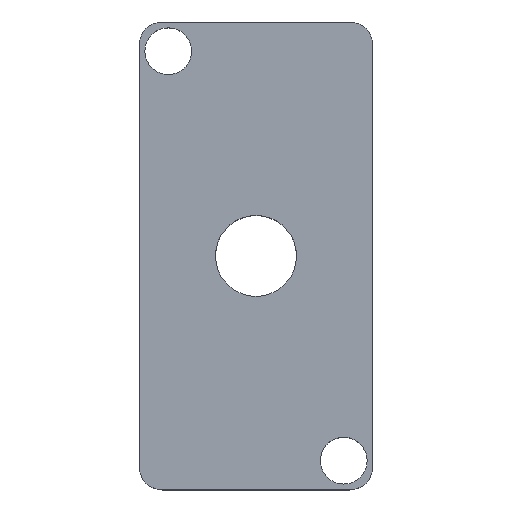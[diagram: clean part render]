
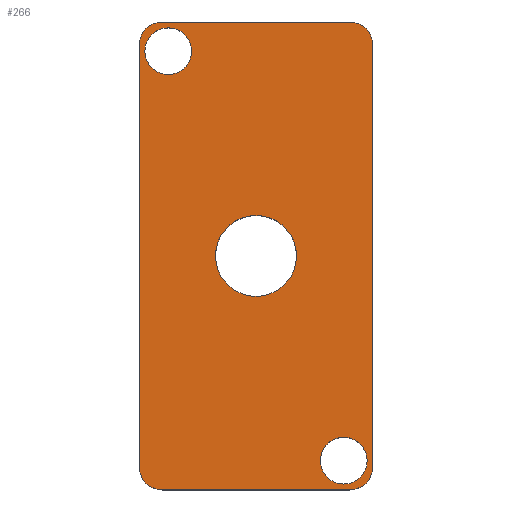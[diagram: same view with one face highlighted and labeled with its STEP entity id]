
A CAD part, top view. The second image highlights one B-rep face of the part: STEP entity #266.
In plain terms, the highlighted planar face has unit normal (0, 0, 1).
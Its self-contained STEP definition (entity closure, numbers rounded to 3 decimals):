
#18=FACE_BOUND('',#56,.T.);
#19=FACE_BOUND('',#57,.T.);
#20=FACE_BOUND('',#58,.T.);
#26=PLANE('',#316);
#39=FACE_OUTER_BOUND('',#55,.T.);
#55=EDGE_LOOP('',(#233,#234,#235,#236,#237,#238,#239,#240));
#56=EDGE_LOOP('',(#241,#242));
#57=EDGE_LOOP('',(#243,#244));
#58=EDGE_LOOP('',(#245,#246));
#65=LINE('',#430,#84);
#71=LINE('',#445,#90);
#76=LINE('',#469,#95);
#77=LINE('',#471,#96);
#84=VECTOR('',#347,10.);
#90=VECTOR('',#363,10.);
#95=VECTOR('',#392,10.);
#96=VECTOR('',#395,10.);
#97=CIRCLE('',#288,4.);
#105=CIRCLE('',#299,4.);
#106=CIRCLE('',#301,4.);
#107=CIRCLE('',#304,4.);
#108=CIRCLE('',#306,6.918);
#109=CIRCLE('',#307,6.918);
#110=CIRCLE('',#309,4.);
#111=CIRCLE('',#310,4.);
#112=CIRCLE('',#312,4.);
#113=CIRCLE('',#313,4.);
#114=VERTEX_POINT('',#400);
#115=VERTEX_POINT('',#401);
#127=VERTEX_POINT('',#429);
#128=VERTEX_POINT('',#433);
#129=VERTEX_POINT('',#437);
#130=VERTEX_POINT('',#438);
#131=VERTEX_POINT('',#443);
#132=VERTEX_POINT('',#447);
#133=VERTEX_POINT('',#451);
#134=VERTEX_POINT('',#452);
#135=VERTEX_POINT('',#457);
#136=VERTEX_POINT('',#458);
#137=VERTEX_POINT('',#463);
#138=VERTEX_POINT('',#464);
#139=EDGE_CURVE('',#114,#115,#97,.T.);
#153=EDGE_CURVE('',#115,#127,#65,.T.);
#155=EDGE_CURVE('',#127,#128,#105,.T.);
#157=EDGE_CURVE('',#129,#130,#106,.T.);
#161=EDGE_CURVE('',#131,#129,#71,.T.);
#162=EDGE_CURVE('',#132,#131,#107,.T.);
#164=EDGE_CURVE('',#133,#134,#108,.T.);
#165=EDGE_CURVE('',#134,#133,#109,.T.);
#167=EDGE_CURVE('',#135,#136,#110,.T.);
#168=EDGE_CURVE('',#136,#135,#111,.T.);
#170=EDGE_CURVE('',#137,#138,#112,.T.);
#171=EDGE_CURVE('',#138,#137,#113,.T.);
#173=EDGE_CURVE('',#128,#132,#76,.T.);
#174=EDGE_CURVE('',#130,#114,#77,.T.);
#233=ORIENTED_EDGE('',*,*,#139,.F.);
#234=ORIENTED_EDGE('',*,*,#174,.F.);
#235=ORIENTED_EDGE('',*,*,#157,.F.);
#236=ORIENTED_EDGE('',*,*,#161,.F.);
#237=ORIENTED_EDGE('',*,*,#162,.F.);
#238=ORIENTED_EDGE('',*,*,#173,.F.);
#239=ORIENTED_EDGE('',*,*,#155,.F.);
#240=ORIENTED_EDGE('',*,*,#153,.F.);
#241=ORIENTED_EDGE('',*,*,#164,.T.);
#242=ORIENTED_EDGE('',*,*,#165,.T.);
#243=ORIENTED_EDGE('',*,*,#167,.T.);
#244=ORIENTED_EDGE('',*,*,#168,.T.);
#245=ORIENTED_EDGE('',*,*,#170,.T.);
#246=ORIENTED_EDGE('',*,*,#171,.T.);
#266=ADVANCED_FACE('',(#39,#18,#19,#20),#26,.T.);
#288=AXIS2_PLACEMENT_3D('',#402,#321,#322);
#299=AXIS2_PLACEMENT_3D('',#434,#351,#352);
#301=AXIS2_PLACEMENT_3D('',#439,#356,#357);
#304=AXIS2_PLACEMENT_3D('',#448,#366,#367);
#306=AXIS2_PLACEMENT_3D('',#453,#371,#372);
#307=AXIS2_PLACEMENT_3D('',#454,#373,#374);
#309=AXIS2_PLACEMENT_3D('',#459,#378,#379);
#310=AXIS2_PLACEMENT_3D('',#460,#380,#381);
#312=AXIS2_PLACEMENT_3D('',#465,#385,#386);
#313=AXIS2_PLACEMENT_3D('',#466,#387,#388);
#316=AXIS2_PLACEMENT_3D('',#472,#396,#397);
#321=DIRECTION('center_axis',(0.,0.,-1.));
#322=DIRECTION('ref_axis',(-0.707,0.707,0.));
#347=DIRECTION('',(1.,0.,0.));
#351=DIRECTION('center_axis',(0.,0.,-1.));
#352=DIRECTION('ref_axis',(0.707,0.707,0.));
#356=DIRECTION('center_axis',(0.,0.,-1.));
#357=DIRECTION('ref_axis',(-0.707,-0.707,0.));
#363=DIRECTION('',(-1.,0.,0.));
#366=DIRECTION('center_axis',(0.,0.,-1.));
#367=DIRECTION('ref_axis',(0.707,-0.707,0.));
#371=DIRECTION('center_axis',(0.,0.,-1.));
#372=DIRECTION('ref_axis',(1.,0.,0.));
#373=DIRECTION('center_axis',(0.,0.,-1.));
#374=DIRECTION('ref_axis',(1.,0.,0.));
#378=DIRECTION('center_axis',(0.,0.,-1.));
#379=DIRECTION('ref_axis',(1.,0.,0.));
#380=DIRECTION('center_axis',(0.,0.,-1.));
#381=DIRECTION('ref_axis',(1.,0.,0.));
#385=DIRECTION('center_axis',(0.,0.,-1.));
#386=DIRECTION('ref_axis',(1.,0.,0.));
#387=DIRECTION('center_axis',(0.,0.,-1.));
#388=DIRECTION('ref_axis',(1.,0.,0.));
#392=DIRECTION('',(0.,-1.,0.));
#395=DIRECTION('',(0.,1.,0.));
#396=DIRECTION('center_axis',(0.,0.,1.));
#397=DIRECTION('ref_axis',(1.,0.,0.));
#400=CARTESIAN_POINT('',(-16.647,19.084,8.));
#401=CARTESIAN_POINT('',(-12.647,23.084,8.));
#402=CARTESIAN_POINT('Origin',(-12.647,19.084,8.));
#429=CARTESIAN_POINT('',(19.353,23.084,8.));
#430=CARTESIAN_POINT('',(-16.647,23.084,8.));
#433=CARTESIAN_POINT('',(23.353,19.084,8.));
#434=CARTESIAN_POINT('Origin',(19.353,19.084,8.));
#437=CARTESIAN_POINT('',(-12.647,-56.916,8.));
#438=CARTESIAN_POINT('',(-16.647,-52.916,8.));
#439=CARTESIAN_POINT('Origin',(-12.647,-52.916,8.));
#443=CARTESIAN_POINT('',(19.353,-56.916,8.));
#445=CARTESIAN_POINT('',(23.353,-56.916,8.));
#447=CARTESIAN_POINT('',(23.353,-52.916,8.));
#448=CARTESIAN_POINT('Origin',(19.353,-52.916,8.));
#451=CARTESIAN_POINT('',(10.271,-16.916,8.));
#452=CARTESIAN_POINT('',(-3.564,-16.916,8.));
#453=CARTESIAN_POINT('Origin',(3.353,-16.916,8.));
#454=CARTESIAN_POINT('Origin',(3.353,-16.916,8.));
#457=CARTESIAN_POINT('',(22.353,-51.916,8.));
#458=CARTESIAN_POINT('',(14.353,-51.916,8.));
#459=CARTESIAN_POINT('Origin',(18.353,-51.916,8.));
#460=CARTESIAN_POINT('Origin',(18.353,-51.916,8.));
#463=CARTESIAN_POINT('',(-7.647,18.084,8.));
#464=CARTESIAN_POINT('',(-15.647,18.084,8.));
#465=CARTESIAN_POINT('Origin',(-11.647,18.084,8.));
#466=CARTESIAN_POINT('Origin',(-11.647,18.084,8.));
#469=CARTESIAN_POINT('',(23.353,23.084,8.));
#471=CARTESIAN_POINT('',(-16.647,-56.916,8.));
#472=CARTESIAN_POINT('Origin',(3.353,-16.916,8.));
